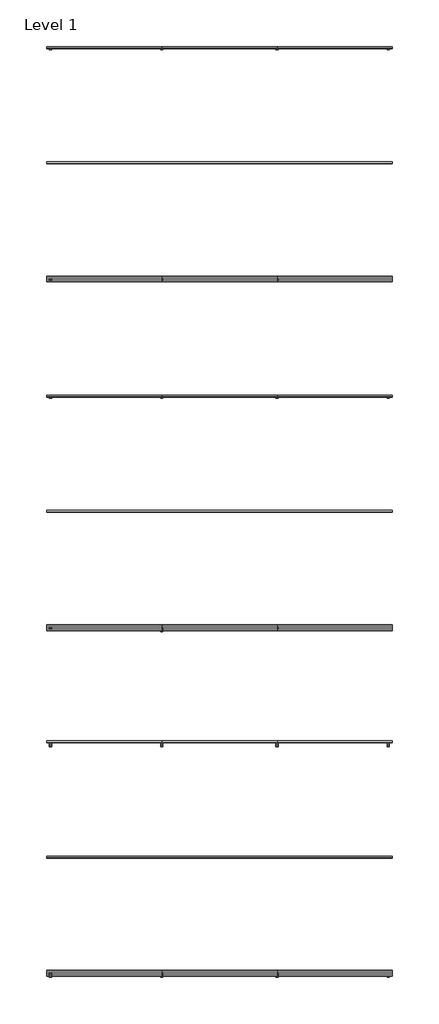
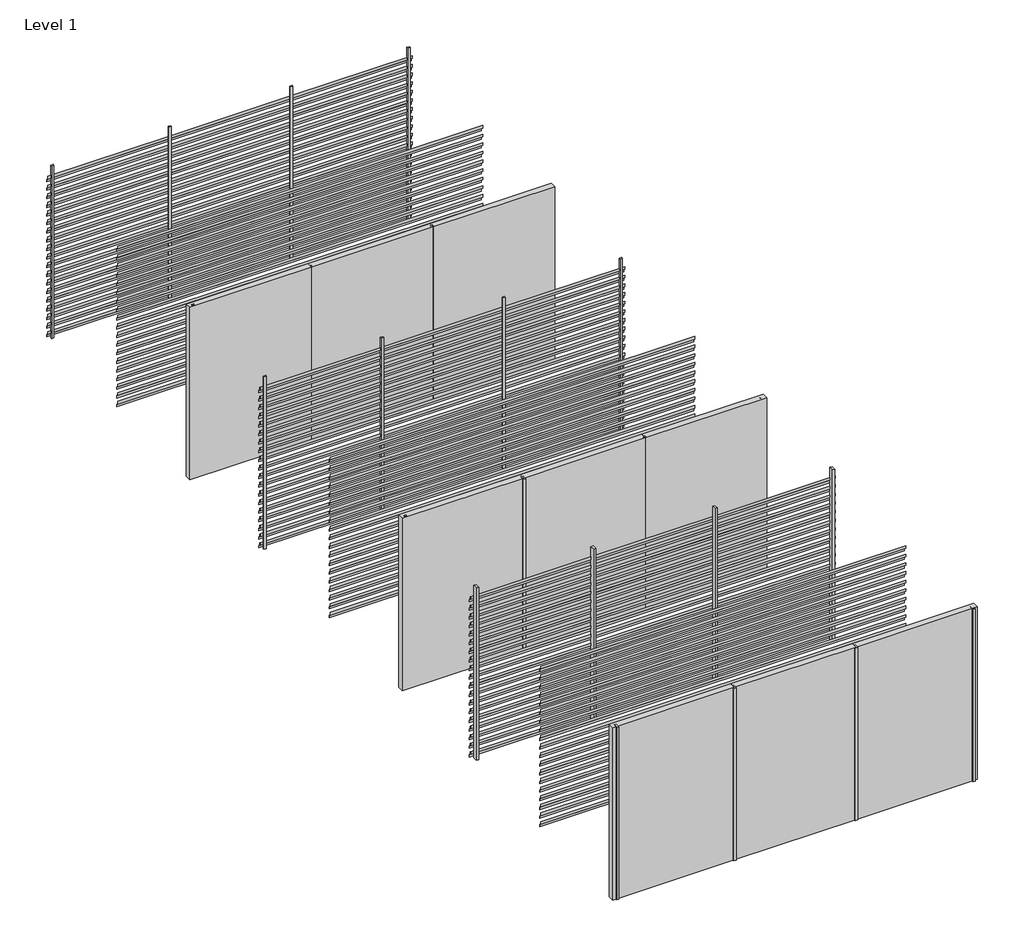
# One storey: 24 members, 21 plates.
"""IFC4 building model written with IfcOpenShell, lengths in millimetres."""

from ifc_helpers import new_model, si_unit, origin, place, context, project, spatial, transform, mapped, element, save
from components import rectangular_mullion_38ebcafd, rectangular_mullion_2b30d03f, rectangular_mullion_a5d3c004, rectangular_mullion_b9a1a312, rectangular_mullion_3da17bfe, rectangular_mullion_3b23135f, empty_system_panel_empty_24b1c33f, screening_35_150_screening_35_150_5006e528, screening_35_150_screening_35_150_a8d9859b

model = new_model("IFC4")

# Units and contexts
model_context = context("Model", 3, world=origin())
ifc_project = project(units=[si_unit("LENGTHUNIT", "METRE", prefix="MILLI")], contexts=[model_context])

# Site, building, storey
site = spatial("IfcSite", under=ifc_project)
building = spatial("IfcBuilding", under=site)
storey = spatial("IfcBuildingStorey", under=building, Name="Level 1", Elevation=0.0)

# Members
placement = place(None, origin())
rectangular_mullion_shape = rectangular_mullion_38ebcafd(model_context)
element("IfcMember", 1, ObjectType="Rectangular Mullion : RSen_21_CWM_support profile - 40x21 - left_gen_duco projects", at=placement, inside=storey, context=model_context, shape_type="MappedRepresentation", body=[
    mapped(rectangular_mullion_shape, transform((0.0, 0.0, 0.0), x_axis=(-1.0, 0.0, 0.0), y_axis=(0.0, 1.0, 0.0), z_axis=(0.0, 0.0, -1.0))),
])
element("IfcMember", 2, ObjectType="Rectangular Mullion : RSen_21_CWM_support profile - 40x21 - left_gen_duco projects", at=placement, inside=storey, context=model_context, shape_type="MappedRepresentation", body=[
    mapped(rectangular_mullion_shape, transform((0.0, -4000.0, 0.0), x_axis=(-1.0, 0.0, 0.0), y_axis=(0.0, 1.0, 0.0), z_axis=(0.0, 0.0, -1.0))),
])
rectangular_mullion_2_shape = rectangular_mullion_2b30d03f(model_context)
element("IfcMember", 3, ObjectType="Rectangular Mullion : RSen_21_CWM_support profile - 40x21 - right_gen_duco projects", at=placement, inside=storey, context=model_context, shape_type="MappedRepresentation", body=[
    mapped(rectangular_mullion_2_shape, transform((6000.0, 0.0, 3000.0), x_axis=(1.0, 0.0, 0.0), y_axis=(0.0, 1.0, 0.0), z_axis=(0.0, 0.0, 1.0))),
])
element("IfcMember", 4, ObjectType="Rectangular Mullion : RSen_21_CWM_support profile - 40x21 - right_gen_duco projects", at=placement, inside=storey, context=model_context, shape_type="MappedRepresentation", body=[
    mapped(rectangular_mullion_2_shape, transform((6000.0, -4000.0, 3000.0), x_axis=(1.0, 0.0, 0.0), y_axis=(0.0, 1.0, 0.0), z_axis=(0.0, 0.0, 1.0))),
])
rectangular_mullion_3_shape = rectangular_mullion_a5d3c004(model_context)
element("IfcMember", 5, ObjectType="Rectangular Mullion : RSen_21_CWM_support profile - 40x70-double - left_gen_duco projects", at=placement, inside=storey, context=model_context, shape_type="MappedRepresentation", body=[
    mapped(rectangular_mullion_3_shape, transform((0.0, -6000.0, 0.0), x_axis=(-1.0, 0.0, 0.0), y_axis=(0.0, 1.0, 0.0), z_axis=(0.0, 0.0, -1.0))),
])
element("IfcMember", 6, ObjectType="Rectangular Mullion : RSen_21_CWM_support profile - 40x70-double - left_gen_duco projects", at=placement, inside=storey, context=model_context, shape_type="MappedRepresentation", body=[
    mapped(rectangular_mullion_3_shape, transform((0.0, -10000.0, 0.0), x_axis=(-1.0, 0.0, 0.0), y_axis=(0.0, 1.0, 0.0), z_axis=(0.0, 0.0, -1.0))),
])
rectangular_mullion_4_shape = rectangular_mullion_b9a1a312(model_context)
element("IfcMember", 7, ObjectType="Rectangular Mullion : RSen_21_CWM_support profile - 40x70-double - right_gen_duco projects", at=placement, inside=storey, context=model_context, shape_type="MappedRepresentation", body=[
    mapped(rectangular_mullion_4_shape, transform((6000.0, -6000.0, 3000.0), x_axis=(1.0, 0.0, 0.0), y_axis=(0.0, 1.0, 0.0), z_axis=(0.0, 0.0, 1.0))),
])
element("IfcMember", 8, ObjectType="Rectangular Mullion : RSen_21_CWM_support profile - 40x70-double - right_gen_duco projects", at=placement, inside=storey, context=model_context, shape_type="MappedRepresentation", body=[
    mapped(rectangular_mullion_4_shape, transform((6000.0, -10000.0, 3000.0), x_axis=(1.0, 0.0, 0.0), y_axis=(0.0, 1.0, 0.0), z_axis=(0.0, 0.0, 1.0))),
])
rectangular_mullion_5_shape = rectangular_mullion_3da17bfe(model_context)
element("IfcMember", 9, ObjectType="Rectangular Mullion : RSen_21_CWM_support profile - 40x70-double_gen_duco projects", at=placement, inside=storey, context=model_context, shape_type="MappedRepresentation", body=[
    mapped(rectangular_mullion_5_shape, transform((2000.0, -4000.0, 0.0), x_axis=(-1.0, 0.0, 0.0), y_axis=(0.0, 1.0, 0.0), z_axis=(0.0, 0.0, -1.0))),
])
element("IfcMember", 10, ObjectType="Rectangular Mullion : RSen_21_CWM_support profile - 40x70-double_gen_duco projects", at=placement, inside=storey, context=model_context, shape_type="MappedRepresentation", body=[
    mapped(rectangular_mullion_5_shape, transform((4000.0, -6000.0, 0.0), x_axis=(-1.0, 0.0, 0.0), y_axis=(0.0, 1.0, 0.0), z_axis=(0.0, 0.0, -1.0))),
])
element("IfcMember", 11, ObjectType="Rectangular Mullion : RSen_21_CWM_support profile - 40x70-double_gen_duco projects", at=placement, inside=storey, context=model_context, shape_type="MappedRepresentation", body=[
    mapped(rectangular_mullion_5_shape, transform((2000.0, -6000.0, 0.0), x_axis=(-1.0, 0.0, 0.0), y_axis=(0.0, 1.0, 0.0), z_axis=(0.0, 0.0, -1.0))),
])
element("IfcMember", 12, ObjectType="Rectangular Mullion : RSen_21_CWM_support profile - 40x70-double_gen_duco projects", at=placement, inside=storey, context=model_context, shape_type="MappedRepresentation", body=[
    mapped(rectangular_mullion_5_shape, transform((4000.0, -10000.0, 0.0), x_axis=(-1.0, 0.0, 0.0), y_axis=(0.0, 1.0, 0.0), z_axis=(0.0, 0.0, -1.0))),
])
element("IfcMember", 13, ObjectType="Rectangular Mullion : RSen_21_CWM_support profile - 40x70-double_gen_duco projects", at=placement, inside=storey, context=model_context, shape_type="MappedRepresentation", body=[
    mapped(rectangular_mullion_5_shape, transform((2000.0, -10000.0, 0.0), x_axis=(-1.0, 0.0, 0.0), y_axis=(0.0, 1.0, 0.0), z_axis=(0.0, 0.0, -1.0))),
])
rectangular_mullion_6_shape = rectangular_mullion_3b23135f(model_context)
element("IfcMember", 14, ObjectType="Rectangular Mullion : RSen_21_CWM_support profile - 40x21 - gen_duco projects", at=placement, inside=storey, context=model_context, shape_type="MappedRepresentation", body=[
    mapped(rectangular_mullion_6_shape, transform((4000.0, 0.0, 0.0), x_axis=(-1.0, 0.0, 0.0), y_axis=(0.0, 1.0, 0.0), z_axis=(0.0, 0.0, -1.0))),
])
element("IfcMember", 15, ObjectType="Rectangular Mullion : RSen_21_CWM_support profile - 40x21 - gen_duco projects", at=placement, inside=storey, context=model_context, shape_type="MappedRepresentation", body=[
    mapped(rectangular_mullion_6_shape, transform((2000.0, 0.0, 0.0), x_axis=(-1.0, 0.0, 0.0), y_axis=(0.0, 1.0, 0.0), z_axis=(0.0, 0.0, -1.0))),
])
element("IfcMember", 16, ObjectType="Rectangular Mullion : RSen_21_CWM_support profile - 40x21 - gen_duco projects", at=placement, inside=storey, context=model_context, shape_type="MappedRepresentation", body=[
    mapped(rectangular_mullion_6_shape, transform((4000.0, -4000.0, 0.0), x_axis=(-1.0, 0.0, 0.0), y_axis=(0.0, 1.0, 0.0), z_axis=(0.0, 0.0, -1.0))),
])
element("IfcMember", 17, ObjectType="Rectangular Mullion : RSen_21_CWM_support profile - 40x21-double_gen_duco projects", at=placement, inside=storey, context=model_context, shape_type="MappedRepresentation", body=[
    mapped(rectangular_mullion_6_shape, transform((4000.0, 6050.5, 0.0), x_axis=(-1.0, 0.0, 0.0), y_axis=(0.0, 1.0, 0.0), z_axis=(0.0, 0.0, -1.0))),
])
element("IfcMember", 18, ObjectType="Rectangular Mullion : RSen_21_CWM_support profile - 40x21-double_gen_duco projects", at=placement, inside=storey, context=model_context, shape_type="MappedRepresentation", body=[
    mapped(rectangular_mullion_6_shape, transform((2000.0, 6050.5, 0.0), x_axis=(-1.0, 0.0, 0.0), y_axis=(0.0, 1.0, 0.0), z_axis=(0.0, 0.0, -1.0))),
])
element("IfcMember", 19, ObjectType="Rectangular Mullion : RSen_21_CWM_support profile - 40x21-double_gen_duco projects", at=placement, inside=storey, context=model_context, shape_type="MappedRepresentation", body=[
    mapped(rectangular_mullion_6_shape, transform((4000.0, 2050.5, 0.0), x_axis=(-1.0, 0.0, 0.0), y_axis=(0.0, 1.0, 0.0), z_axis=(0.0, 0.0, -1.0))),
])
element("IfcMember", 20, ObjectType="Rectangular Mullion : RSen_21_CWM_support profile - 40x21-double_gen_duco projects", at=placement, inside=storey, context=model_context, shape_type="MappedRepresentation", body=[
    mapped(rectangular_mullion_6_shape, transform((2000.0, 2050.5, 0.0), x_axis=(-1.0, 0.0, 0.0), y_axis=(0.0, 1.0, 0.0), z_axis=(0.0, 0.0, -1.0))),
])
element("IfcMember", 21, ObjectType="Rectangular Mullion : RSen_21_CWM_support profile - 40x21-double - right_gen_duco projects", at=placement, inside=storey, context=model_context, shape_type="MappedRepresentation", body=[
    mapped(rectangular_mullion_2_shape, transform((6000.0, 6050.5, 3000.0), x_axis=(1.0, 0.0, 0.0), y_axis=(0.0, 1.0, 0.0), z_axis=(0.0, 0.0, 1.0))),
])
element("IfcMember", 22, ObjectType="Rectangular Mullion : RSen_21_CWM_support profile - 40x21-double - right_gen_duco projects", at=placement, inside=storey, context=model_context, shape_type="MappedRepresentation", body=[
    mapped(rectangular_mullion_2_shape, transform((6000.0, 2050.5, 3000.0), x_axis=(1.0, 0.0, 0.0), y_axis=(0.0, 1.0, 0.0), z_axis=(0.0, 0.0, 1.0))),
])
element("IfcMember", 23, ObjectType="Rectangular Mullion : RSen_21_CWM_support profile - 40x21-double - left_gen_duco projects", at=placement, inside=storey, context=model_context, shape_type="MappedRepresentation", body=[
    mapped(rectangular_mullion_shape, transform((0.0, 6050.5, 0.0), x_axis=(-1.0, 0.0, 0.0), y_axis=(0.0, 1.0, 0.0), z_axis=(0.0, 0.0, -1.0))),
])
element("IfcMember", 24, ObjectType="Rectangular Mullion : RSen_21_CWM_support profile - 40x21-double - left_gen_duco projects", at=placement, inside=storey, context=model_context, shape_type="MappedRepresentation", body=[
    mapped(rectangular_mullion_shape, transform((0.0, 2050.5, 0.0), x_axis=(-1.0, 0.0, 0.0), y_axis=(0.0, 1.0, 0.0), z_axis=(0.0, 0.0, -1.0))),
])

# Plates
empty_system_panel_empty_shape = empty_system_panel_empty_24b1c33f(model_context)
element("IfcPlate", 25, ObjectType="Empty System Panel : Empty", at=placement, inside=storey, context=model_context, shape_type="MappedRepresentation", body=[
    mapped(empty_system_panel_empty_shape, transform((5000.0, -4000.0, 0.0), x_axis=(-1.0, 0.0, 0.0), y_axis=(0.0, -1.0, 0.0), z_axis=(0.0, 0.0, 1.0))),
])
element("IfcPlate", 26, ObjectType="Empty System Panel : Empty", at=placement, inside=storey, context=model_context, shape_type="MappedRepresentation", body=[
    mapped(empty_system_panel_empty_shape, transform((5000.0, -10000.0, 0.0), x_axis=(-1.0, 0.0, 0.0), y_axis=(0.0, -1.0, 0.0), z_axis=(0.0, 0.0, 1.0))),
])
element("IfcPlate", 27, ObjectType="Empty System Panel : Empty", at=placement, inside=storey, context=model_context, shape_type="MappedRepresentation", body=[
    mapped(empty_system_panel_empty_shape, transform((3000.0, -4000.0, 0.0), x_axis=(-1.0, 0.0, 0.0), y_axis=(0.0, -1.0, 0.0), z_axis=(0.0, 0.0, 1.0))),
])
element("IfcPlate", 28, ObjectType="Empty System Panel : Empty", at=placement, inside=storey, context=model_context, shape_type="MappedRepresentation", body=[
    mapped(empty_system_panel_empty_shape, transform((1000.0, -4000.0, 0.0), x_axis=(-1.0, 0.0, 0.0), y_axis=(0.0, -1.0, 0.0), z_axis=(0.0, 0.0, 1.0))),
])
element("IfcPlate", 29, ObjectType="Empty System Panel : Empty", at=placement, inside=storey, context=model_context, shape_type="MappedRepresentation", body=[
    mapped(empty_system_panel_empty_shape, transform((3000.0, -10000.0, 0.0), x_axis=(-1.0, 0.0, 0.0), y_axis=(0.0, -1.0, 0.0), z_axis=(0.0, 0.0, 1.0))),
])
element("IfcPlate", 30, ObjectType="Empty System Panel : Empty", at=placement, inside=storey, context=model_context, shape_type="MappedRepresentation", body=[
    mapped(empty_system_panel_empty_shape, transform((1000.0, -10000.0, 0.0), x_axis=(-1.0, 0.0, 0.0), y_axis=(0.0, -1.0, 0.0), z_axis=(0.0, 0.0, 1.0))),
])
element("IfcPlate", 31, ObjectType="Empty System Panel : Empty", at=placement, inside=storey, context=model_context, shape_type="MappedRepresentation", body=[
    mapped(empty_system_panel_empty_shape, transform((5000.0, 2050.5, 0.0), x_axis=(-1.0, 0.0, 0.0), y_axis=(0.0, -1.0, 0.0), z_axis=(0.0, 0.0, 1.0))),
])
element("IfcPlate", 32, ObjectType="Empty System Panel : Empty", at=placement, inside=storey, context=model_context, shape_type="MappedRepresentation", body=[
    mapped(empty_system_panel_empty_shape, transform((3000.0, 2050.5, 0.0), x_axis=(-1.0, 0.0, 0.0), y_axis=(0.0, -1.0, 0.0), z_axis=(0.0, 0.0, 1.0))),
])
element("IfcPlate", 33, ObjectType="Empty System Panel : Empty", at=placement, inside=storey, context=model_context, shape_type="MappedRepresentation", body=[
    mapped(empty_system_panel_empty_shape, transform((1000.0, 2050.5, 0.0), x_axis=(-1.0, 0.0, 0.0), y_axis=(0.0, -1.0, 0.0), z_axis=(0.0, 0.0, 1.0))),
])
screening_35_150_screening_35_150_shape = screening_35_150_screening_35_150_5006e528(model_context)
element("IfcPlate", 34, ObjectType="Screening 35-150 : Screening 35-150", at=placement, inside=storey, context=model_context, shape_type="MappedRepresentation", body=[
    mapped(screening_35_150_screening_35_150_shape, transform((5000.0, 0.0, 0.0), x_axis=(-1.0, 0.0, 0.0), y_axis=(0.0, -1.0, 0.0), z_axis=(0.0, 0.0, 1.0))),
])
element("IfcPlate", 35, ObjectType="Screening 35-150 : Screening 35-150", at=placement, inside=storey, context=model_context, shape_type="MappedRepresentation", body=[
    mapped(screening_35_150_screening_35_150_shape, transform((5000.0, -6000.0, 0.0), x_axis=(-1.0, 0.0, 0.0), y_axis=(0.0, -1.0, 0.0), z_axis=(0.0, 0.0, 1.0))),
])
element("IfcPlate", 36, ObjectType="Screening 35-150 : Screening 35-150", at=placement, inside=storey, context=model_context, shape_type="MappedRepresentation", body=[
    mapped(screening_35_150_screening_35_150_shape, transform((3000.0, 0.0, 0.0), x_axis=(-1.0, 0.0, 0.0), y_axis=(0.0, -1.0, 0.0), z_axis=(0.0, 0.0, 1.0))),
])
element("IfcPlate", 37, ObjectType="Screening 35-150 : Screening 35-150", at=placement, inside=storey, context=model_context, shape_type="MappedRepresentation", body=[
    mapped(screening_35_150_screening_35_150_shape, transform((1000.0, 0.0, 0.0), x_axis=(-1.0, 0.0, 0.0), y_axis=(0.0, -1.0, 0.0), z_axis=(0.0, 0.0, 1.0))),
])
element("IfcPlate", 38, ObjectType="Screening 35-150 : Screening 35-150", at=placement, inside=storey, context=model_context, shape_type="MappedRepresentation", body=[
    mapped(screening_35_150_screening_35_150_shape, transform((3000.0, -6000.0, 0.0), x_axis=(-1.0, 0.0, 0.0), y_axis=(0.0, -1.0, 0.0), z_axis=(0.0, 0.0, 1.0))),
])
element("IfcPlate", 39, ObjectType="Screening 35-150 : Screening 35-150", at=placement, inside=storey, context=model_context, shape_type="MappedRepresentation", body=[
    mapped(screening_35_150_screening_35_150_shape, transform((1000.0, -6000.0, 0.0), x_axis=(-1.0, 0.0, 0.0), y_axis=(0.0, -1.0, 0.0), z_axis=(0.0, 0.0, 1.0))),
])
element("IfcPlate", 40, ObjectType="Screening 35-150 : Screening 35-150", at=placement, inside=storey, context=model_context, shape_type="MappedRepresentation", body=[
    mapped(screening_35_150_screening_35_150_shape, transform((5000.0, 6050.5, 0.0), x_axis=(-1.0, 0.0, 0.0), y_axis=(0.0, -1.0, 0.0), z_axis=(0.0, 0.0, 1.0))),
])
element("IfcPlate", 41, ObjectType="Screening 35-150 : Screening 35-150", at=placement, inside=storey, context=model_context, shape_type="MappedRepresentation", body=[
    mapped(screening_35_150_screening_35_150_shape, transform((3000.0, 6050.5, 0.0), x_axis=(-1.0, 0.0, 0.0), y_axis=(0.0, -1.0, 0.0), z_axis=(0.0, 0.0, 1.0))),
])
element("IfcPlate", 42, ObjectType="Screening 35-150 : Screening 35-150", at=placement, inside=storey, context=model_context, shape_type="MappedRepresentation", body=[
    mapped(screening_35_150_screening_35_150_shape, transform((1000.0, 6050.5, 0.0), x_axis=(-1.0, 0.0, 0.0), y_axis=(0.0, -1.0, 0.0), z_axis=(0.0, 0.0, 1.0))),
])
screening_35_150_screening_35_150_2_shape = screening_35_150_screening_35_150_a8d9859b(model_context)
element("IfcPlate", 43, ObjectType="Screening 35-150 : Screening 35-150", at=placement, inside=storey, context=model_context, shape_type="MappedRepresentation", body=[
    mapped(screening_35_150_screening_35_150_2_shape, transform((3000.0, -2000.0, 0.0), x_axis=(-1.0, 0.0, 0.0), y_axis=(0.0, -1.0, 0.0), z_axis=(0.0, 0.0, 1.0))),
])
element("IfcPlate", 44, ObjectType="Screening 35-150 : Screening 35-150", at=placement, inside=storey, context=model_context, shape_type="MappedRepresentation", body=[
    mapped(screening_35_150_screening_35_150_2_shape, transform((3000.0, -8000.0, 0.0), x_axis=(-1.0, 0.0, 0.0), y_axis=(0.0, -1.0, 0.0), z_axis=(0.0, 0.0, 1.0))),
])
element("IfcPlate", 45, ObjectType="Screening 35-150 : Screening 35-150", at=placement, inside=storey, context=model_context, shape_type="MappedRepresentation", body=[
    mapped(screening_35_150_screening_35_150_2_shape, transform((3000.0, 4050.5, 0.0), x_axis=(-1.0, 0.0, 0.0), y_axis=(0.0, -1.0, 0.0), z_axis=(0.0, 0.0, 1.0))),
])

save(model, "model.ifc")
